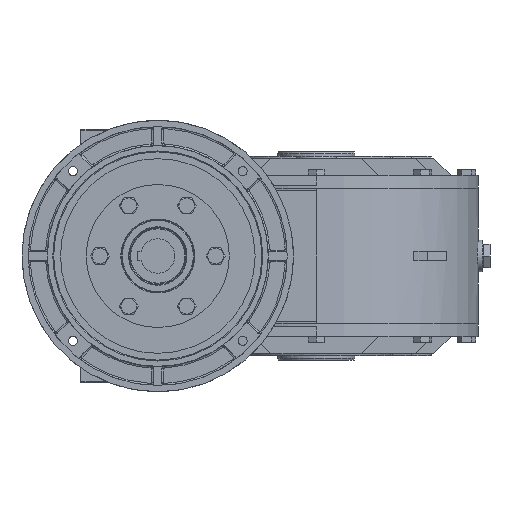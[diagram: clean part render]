
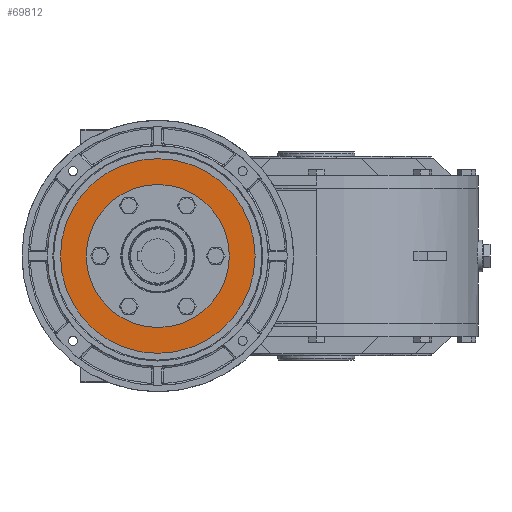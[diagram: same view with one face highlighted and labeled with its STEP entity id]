
A CAD part, left-side view. The second image highlights one B-rep face of the part: STEP entity #69812.
In plain terms, the highlighted planar face has unit normal (-1, 0, 0).
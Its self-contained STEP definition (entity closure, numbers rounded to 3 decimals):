
#7818 = CARTESIAN_POINT ( 'NONE',  ( -200.5, 0., 79. ) ) ;
#8102 = CARTESIAN_POINT ( 'NONE',  ( -200.5, 0., 107.5 ) ) ;
#8119 = CARTESIAN_POINT ( 'NONE',  ( -200.5, 0., -79. ) ) ;
#8120 = DIRECTION ( 'NONE',  ( 0., 0., -1. ) ) ;
#8121 = DIRECTION ( 'NONE',  ( -1., 0., 0. ) ) ;
#8122 = CARTESIAN_POINT ( 'NONE',  ( -200.5, 0., 0. ) ) ;
#8123 = AXIS2_PLACEMENT_3D ( 'NONE', #8122, #8121, #8120 ) ;
#8124 = CIRCLE ( 'NONE', #8123, 79. ) ;
#8266 = CARTESIAN_POINT ( 'NONE',  ( -200.5, 0., -107.5 ) ) ;
#8267 = DIRECTION ( 'NONE',  ( 0., 0., -1. ) ) ;
#8268 = DIRECTION ( 'NONE',  ( -1., 0., 0. ) ) ;
#8269 = CARTESIAN_POINT ( 'NONE',  ( -200.5, 0., 0. ) ) ;
#8270 = AXIS2_PLACEMENT_3D ( 'NONE', #8269, #8268, #8267 ) ;
#8271 = CIRCLE ( 'NONE', #8270, 107.5 ) ;
#29733 = VERTEX_POINT ( 'NONE', #7818 ) ;
#29850 = EDGE_CURVE ( 'NONE', #29852, #29733, #8124, .T. ) ;
#29852 = VERTEX_POINT ( 'NONE', #8119 ) ;
#29865 = VERTEX_POINT ( 'NONE', #8102 ) ;
#29994 = EDGE_CURVE ( 'NONE', #29996, #29865, #8271, .T. ) ;
#29996 = VERTEX_POINT ( 'NONE', #8266 ) ;
#44104 = DIRECTION ( 'NONE',  ( 0., 0., -1. ) ) ;
#44105 = DIRECTION ( 'NONE',  ( -1., 0., 0. ) ) ;
#44106 = CARTESIAN_POINT ( 'NONE',  ( -200.5, 0., 0. ) ) ;
#44107 = AXIS2_PLACEMENT_3D ( 'NONE', #44106, #44105, #44104 ) ;
#44108 = CIRCLE ( 'NONE', #44107, 107.5 ) ;
#44239 = FACE_BOUND ( 'NONE', #73099, .T. ) ;
#44240 = FACE_OUTER_BOUND ( 'NONE', #68577, .T. ) ;
#44376 = DIRECTION ( 'NONE',  ( 0., 0., -1. ) ) ;
#44378 = DIRECTION ( 'NONE',  ( 1., 0., 0. ) ) ;
#44379 = CARTESIAN_POINT ( 'NONE',  ( -200.5, 0., 0. ) ) ;
#44381 = AXIS2_PLACEMENT_3D ( 'NONE', #44379, #44378, #44376 ) ;
#44388 = PLANE ( 'NONE',  #44381 ) ;
#44629 = DIRECTION ( 'NONE',  ( 0., 0., -1. ) ) ;
#44630 = DIRECTION ( 'NONE',  ( -1., 0., 0. ) ) ;
#44631 = CARTESIAN_POINT ( 'NONE',  ( -200.5, 0., 0. ) ) ;
#44632 = AXIS2_PLACEMENT_3D ( 'NONE', #44631, #44630, #44629 ) ;
#44633 = CIRCLE ( 'NONE', #44632, 79. ) ;
#67874 = EDGE_CURVE ( 'NONE', #29865, #29996, #44108, .T. ) ;
#68577 = EDGE_LOOP ( 'NONE', ( #73098, #73097 ) ) ;
#69812 = ADVANCED_FACE ( 'NONE', ( #44240, #44239 ), #44388, .F. ) ;
#71091 = ORIENTED_EDGE ( 'NONE', *, *, #29850, .F. ) ;
#73097 = ORIENTED_EDGE ( 'NONE', *, *, #67874, .T. ) ;
#73098 = ORIENTED_EDGE ( 'NONE', *, *, #29994, .T. ) ;
#73099 = EDGE_LOOP ( 'NONE', ( #71091, #74707 ) ) ;
#74707 = ORIENTED_EDGE ( 'NONE', *, *, #74718, .F. ) ;
#74718 = EDGE_CURVE ( 'NONE', #29733, #29852, #44633, .T. ) ;
